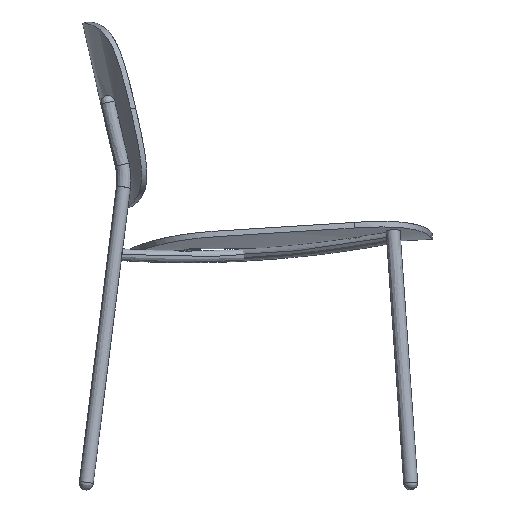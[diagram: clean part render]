
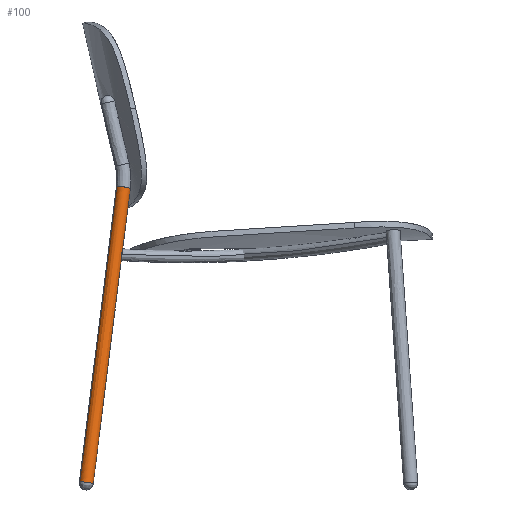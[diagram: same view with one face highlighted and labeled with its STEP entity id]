
A CAD part, left-side view. The second image highlights one B-rep face of the part: STEP entity #100.
In plain terms, the highlighted free-form (B-spline) face has degree [3, 2] with [4, 5] control points.
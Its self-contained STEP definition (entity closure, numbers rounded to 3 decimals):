
#100=ADVANCED_FACE('',(#236),#1652,.T.);
#236=FACE_OUTER_BOUND('',#356,.T.);
#356=EDGE_LOOP('',(#612,#613,#614,#615));
#612=ORIENTED_EDGE('',*,*,#1042,.T.);
#613=ORIENTED_EDGE('',*,*,#1031,.T.);
#614=ORIENTED_EDGE('',*,*,#1019,.F.);
#615=ORIENTED_EDGE('',*,*,#1018,.T.);
#1018=EDGE_CURVE('',#1506,#1518,#1248,.T.);
#1019=EDGE_CURVE('',#1506,#1502,#1249,.T.);
#1031=EDGE_CURVE('',#1512,#1502,#1258,.T.);
#1042=EDGE_CURVE('',#1518,#1512,#1266,.T.);
#1248=(
BOUNDED_CURVE()
B_SPLINE_CURVE(2,(#3934,#3935,#3936,#3937,#3938),.UNSPECIFIED.,.F.,.F.)
B_SPLINE_CURVE_WITH_KNOTS((3,2,3),(0.,1.571,3.142),
 .UNSPECIFIED.)
CURVE()
GEOMETRIC_REPRESENTATION_ITEM()
RATIONAL_B_SPLINE_CURVE((1.,0.707,1.,0.707,1.))
REPRESENTATION_ITEM('')
);
#1249=(
BOUNDED_CURVE()
B_SPLINE_CURVE(3,(#3939,#3940,#3941,#3942),.UNSPECIFIED.,.F.,.F.)
B_SPLINE_CURVE_WITH_KNOTS((4,4),(0.,473.139),.UNSPECIFIED.)
CURVE()
GEOMETRIC_REPRESENTATION_ITEM()
RATIONAL_B_SPLINE_CURVE((1.,1.,1.,1.))
REPRESENTATION_ITEM('')
);
#1258=(
BOUNDED_CURVE()
B_SPLINE_CURVE(2,(#4048,#4049,#4050,#4051,#4052),.UNSPECIFIED.,.F.,.F.)
B_SPLINE_CURVE_WITH_KNOTS((3,2,3),(34.715,52.072,69.429),
 .UNSPECIFIED.)
CURVE()
GEOMETRIC_REPRESENTATION_ITEM()
RATIONAL_B_SPLINE_CURVE((1.,0.707,1.,0.707,1.))
REPRESENTATION_ITEM('')
);
#1266=(
BOUNDED_CURVE()
B_SPLINE_CURVE(3,(#4108,#4109,#4110,#4111),.UNSPECIFIED.,.F.,.F.)
B_SPLINE_CURVE_WITH_KNOTS((4,4),(0.,473.139),.UNSPECIFIED.)
CURVE()
GEOMETRIC_REPRESENTATION_ITEM()
RATIONAL_B_SPLINE_CURVE((1.,1.,1.,1.))
REPRESENTATION_ITEM('')
);
#1502=VERTEX_POINT('',#3853);
#1506=VERTEX_POINT('',#3857);
#1512=VERTEX_POINT('',#3863);
#1518=VERTEX_POINT('',#3869);
#1652=(
BOUNDED_SURFACE()
B_SPLINE_SURFACE(3,2,((#3702,#3703,#3704,#3705,#3706),(#3707,#3708,#3709,
#3710,#3711),(#3712,#3713,#3714,#3715,#3716),(#3717,#3718,#3719,#3720,#3721)),
 .UNSPECIFIED.,.F.,.F.,.F.)
B_SPLINE_SURFACE_WITH_KNOTS((4,4),(3,2,3),(0.,473.139),(34.715,
52.072,69.429),.UNSPECIFIED.)
GEOMETRIC_REPRESENTATION_ITEM()
RATIONAL_B_SPLINE_SURFACE(((1.,0.707,1.,0.707,1.),
(1.,0.707,1.,0.707,1.),(1.,0.707,1.,
0.707,1.),(1.,0.707,1.,0.707,1.)))
REPRESENTATION_ITEM('')
SURFACE()
);
#3702=CARTESIAN_POINT('',(-197.916,307.09,9.016));
#3703=CARTESIAN_POINT('',(-208.483,303.942,9.742));
#3704=CARTESIAN_POINT('',(-211.5,314.445,11.382));
#3705=CARTESIAN_POINT('',(-214.516,324.949,13.021));
#3706=CARTESIAN_POINT('',(-203.949,328.096,12.294));
#3707=CARTESIAN_POINT('',(-181.392,287.547,164.637));
#3708=CARTESIAN_POINT('',(-191.959,284.399,165.364));
#3709=CARTESIAN_POINT('',(-194.975,294.902,167.003));
#3710=CARTESIAN_POINT('',(-197.991,305.406,168.642));
#3711=CARTESIAN_POINT('',(-187.424,308.554,167.916));
#3712=CARTESIAN_POINT('',(-164.867,268.004,320.262));
#3713=CARTESIAN_POINT('',(-175.434,264.856,320.989));
#3714=CARTESIAN_POINT('',(-178.45,275.359,322.628));
#3715=CARTESIAN_POINT('',(-181.466,285.862,324.267));
#3716=CARTESIAN_POINT('',(-170.899,289.01,323.54));
#3717=CARTESIAN_POINT('',(-148.342,248.461,475.884));
#3718=CARTESIAN_POINT('',(-158.91,245.313,476.61));
#3719=CARTESIAN_POINT('',(-161.926,255.816,478.25));
#3720=CARTESIAN_POINT('',(-164.942,266.319,479.889));
#3721=CARTESIAN_POINT('',(-154.375,269.467,479.162));
#3853=CARTESIAN_POINT('',(-154.375,269.467,479.162));
#3857=CARTESIAN_POINT('',(-203.949,328.096,12.294));
#3863=CARTESIAN_POINT('',(-148.342,248.461,475.884));
#3869=CARTESIAN_POINT('',(-197.916,307.09,9.016));
#3934=CARTESIAN_POINT('',(-203.949,328.096,12.294));
#3935=CARTESIAN_POINT('',(-214.516,324.949,13.021));
#3936=CARTESIAN_POINT('',(-211.5,314.445,11.382));
#3937=CARTESIAN_POINT('',(-208.483,303.942,9.742));
#3938=CARTESIAN_POINT('',(-197.916,307.09,9.016));
#3939=CARTESIAN_POINT('',(-203.949,328.096,12.294));
#3940=CARTESIAN_POINT('',(-187.424,308.554,167.916));
#3941=CARTESIAN_POINT('',(-170.899,289.01,323.54));
#3942=CARTESIAN_POINT('',(-154.375,269.467,479.162));
#4048=CARTESIAN_POINT('',(-148.342,248.461,475.884));
#4049=CARTESIAN_POINT('',(-158.91,245.313,476.61));
#4050=CARTESIAN_POINT('',(-161.926,255.816,478.25));
#4051=CARTESIAN_POINT('',(-164.942,266.319,479.889));
#4052=CARTESIAN_POINT('',(-154.375,269.467,479.162));
#4108=CARTESIAN_POINT('',(-197.916,307.09,9.016));
#4109=CARTESIAN_POINT('',(-181.392,287.547,164.637));
#4110=CARTESIAN_POINT('',(-164.867,268.004,320.262));
#4111=CARTESIAN_POINT('',(-148.342,248.461,475.884));
